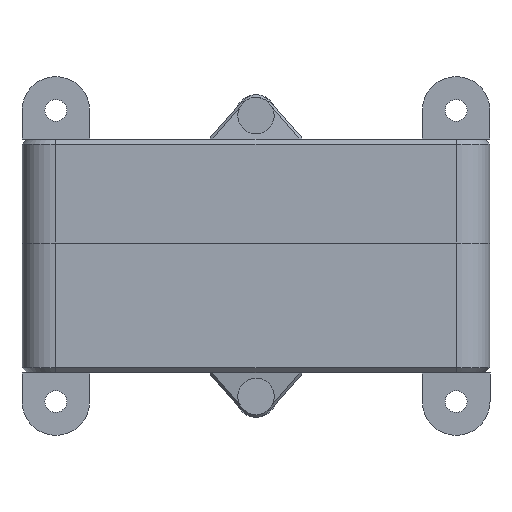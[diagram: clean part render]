
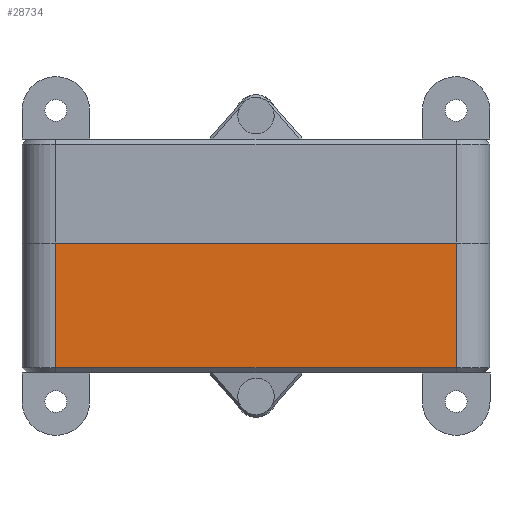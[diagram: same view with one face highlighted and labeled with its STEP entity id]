
A CAD part, front view. The second image highlights one B-rep face of the part: STEP entity #28734.
In plain terms, the highlighted planar face has unit normal (0, -1, 0).
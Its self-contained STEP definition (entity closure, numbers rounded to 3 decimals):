
#2034=PLANE('',#30445);
#3528=LINE('',#42832,#6515);
#3569=LINE('',#42939,#6556);
#3697=LINE('',#43436,#6684);
#3698=LINE('',#43438,#6685);
#6515=VECTOR('',#33418,10.);
#6556=VECTOR('',#33499,10.);
#6684=VECTOR('',#33719,10.);
#6685=VECTOR('',#33722,10.);
#9562=FACE_OUTER_BOUND('',#11218,.T.);
#11218=EDGE_LOOP('',(#25509,#25510,#25511,#25512));
#13086=VERTEX_POINT('',#42829);
#13087=VERTEX_POINT('',#42831);
#13131=VERTEX_POINT('',#42931);
#13133=VERTEX_POINT('',#42937);
#16422=EDGE_CURVE('',#13086,#13087,#3528,.T.);
#16476=EDGE_CURVE('',#13133,#13131,#3569,.T.);
#16643=EDGE_CURVE('',#13087,#13133,#3697,.T.);
#16644=EDGE_CURVE('',#13131,#13086,#3698,.T.);
#25509=ORIENTED_EDGE('',*,*,#16476,.F.);
#25510=ORIENTED_EDGE('',*,*,#16643,.F.);
#25511=ORIENTED_EDGE('',*,*,#16422,.F.);
#25512=ORIENTED_EDGE('',*,*,#16644,.F.);
#28734=ADVANCED_FACE('',(#9562),#2034,.T.);
#30445=AXIS2_PLACEMENT_3D('',#48241,#35561,#35562);
#33418=DIRECTION('',(1.,0.,0.));
#33499=DIRECTION('',(-1.,0.,0.));
#33719=DIRECTION('',(0.,0.,-1.));
#33722=DIRECTION('',(0.,0.,1.));
#35561=DIRECTION('center_axis',(0.,-1.,0.));
#35562=DIRECTION('ref_axis',(1.,0.,0.));
#42829=CARTESIAN_POINT('',(-38.5,0.,25.));
#42831=CARTESIAN_POINT('',(38.5,0.,25.));
#42832=CARTESIAN_POINT('',(-45.,0.,25.));
#42931=CARTESIAN_POINT('',(-38.5,0.,1.));
#42937=CARTESIAN_POINT('',(38.5,0.,1.));
#42939=CARTESIAN_POINT('',(-22.5,0.,1.));
#43436=CARTESIAN_POINT('',(38.5,0.,0.));
#43438=CARTESIAN_POINT('',(-38.5,0.,0.));
#48241=CARTESIAN_POINT('Origin',(-45.,0.,
0.));
